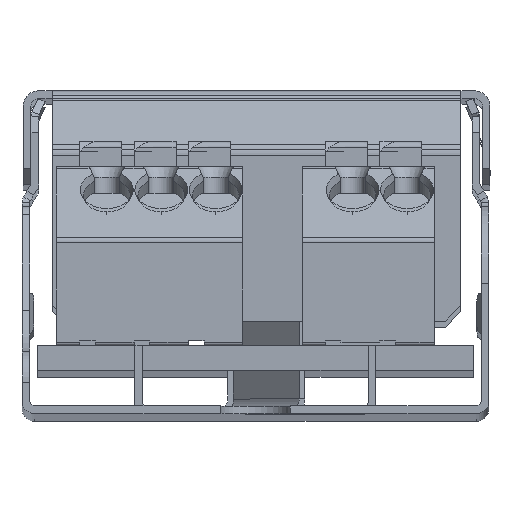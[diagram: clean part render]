
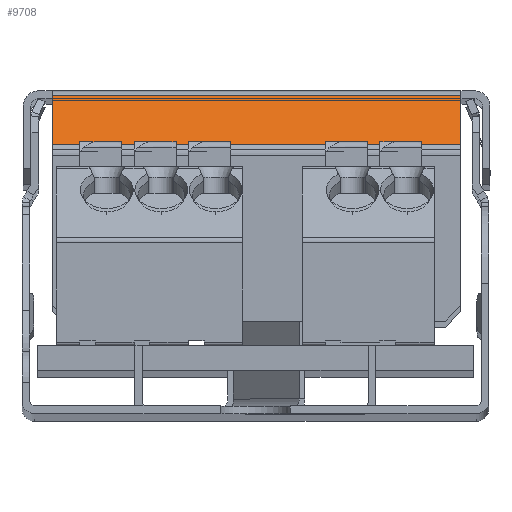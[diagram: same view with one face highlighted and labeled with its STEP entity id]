
A CAD part, top view. The second image highlights one B-rep face of the part: STEP entity #9708.
In plain terms, the highlighted planar face has unit normal (0, 0.707, 0.707).
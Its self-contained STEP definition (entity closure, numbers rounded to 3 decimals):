
#725 = CARTESIAN_POINT ( 'NONE',  ( -3.88, 17.397, -10.937 ) ) ;
#1482 = ORIENTED_EDGE ( 'NONE', *, *, #19652, .F. ) ;
#1961 = LINE ( 'NONE', #11460, #11756 ) ;
#2978 = PLANE ( 'NONE',  #5676 ) ;
#3169 = LINE ( 'NONE', #725, #6853 ) ;
#3393 = VECTOR ( 'NONE', #6155, 1000. ) ;
#3509 = CARTESIAN_POINT ( 'NONE',  ( -4.405, 17.397, -10.937 ) ) ;
#4635 = CARTESIAN_POINT ( 'NONE',  ( -4.405, 14.24, -7.78 ) ) ;
#4767 = CARTESIAN_POINT ( 'NONE',  ( 22.391, 14.24, -7.78 ) ) ;
#4835 = CARTESIAN_POINT ( 'NONE',  ( 22.391, 17.397, -10.937 ) ) ;
#5676 = AXIS2_PLACEMENT_3D ( 'NONE', #10758, #15485, #6133 ) ;
#6133 = DIRECTION ( 'NONE',  ( 0., 0.707, -0.707 ) ) ;
#6150 = FACE_OUTER_BOUND ( 'NONE', #11863, .T. ) ;
#6155 = DIRECTION ( 'NONE',  ( 1., 0., 0. ) ) ;
#6177 = LINE ( 'NONE', #3509, #10811 ) ;
#6853 = VECTOR ( 'NONE', #11655, 1000. ) ;
#7321 = VERTEX_POINT ( 'NONE', #18908 ) ;
#8123 = EDGE_CURVE ( 'NONE', #10606, #7321, #6177, .T. ) ;
#8705 = ORIENTED_EDGE ( 'NONE', *, *, #8123, .T. ) ;
#9708 = ADVANCED_FACE ( 'NONE', ( #6150 ), #2978, .T. ) ;
#10344 = EDGE_CURVE ( 'NONE', #7321, #17810, #3169, .T. ) ;
#10510 = EDGE_CURVE ( 'NONE', #17810, #10580, #16391, .T. ) ;
#10580 = VERTEX_POINT ( 'NONE', #4767 ) ;
#10606 = VERTEX_POINT ( 'NONE', #4835 ) ;
#10758 = CARTESIAN_POINT ( 'NONE',  ( -4.405, 14.025, -7.565 ) ) ;
#10811 = VECTOR ( 'NONE', #11357, 1000. ) ;
#11357 = DIRECTION ( 'NONE',  ( -1., 0., 0. ) ) ;
#11460 = CARTESIAN_POINT ( 'NONE',  ( 22.391, 17.397, -10.937 ) ) ;
#11655 = DIRECTION ( 'NONE',  ( 0., -0.707, 0.707 ) ) ;
#11756 = VECTOR ( 'NONE', #14622, 1000. ) ;
#11863 = EDGE_LOOP ( 'NONE', ( #14909, #1482, #8705, #14155 ) ) ;
#12013 = CARTESIAN_POINT ( 'NONE',  ( -3.88, 14.24, -7.78 ) ) ;
#14155 = ORIENTED_EDGE ( 'NONE', *, *, #10344, .T. ) ;
#14622 = DIRECTION ( 'NONE',  ( 0., -0.707, 0.707 ) ) ;
#14909 = ORIENTED_EDGE ( 'NONE', *, *, #10510, .T. ) ;
#15485 = DIRECTION ( 'NONE',  ( 0., 0.707, 0.707 ) ) ;
#16391 = LINE ( 'NONE', #4635, #3393 ) ;
#17810 = VERTEX_POINT ( 'NONE', #12013 ) ;
#18908 = CARTESIAN_POINT ( 'NONE',  ( -3.88, 17.397, -10.937 ) ) ;
#19652 = EDGE_CURVE ( 'NONE', #10606, #10580, #1961, .T. ) ;
